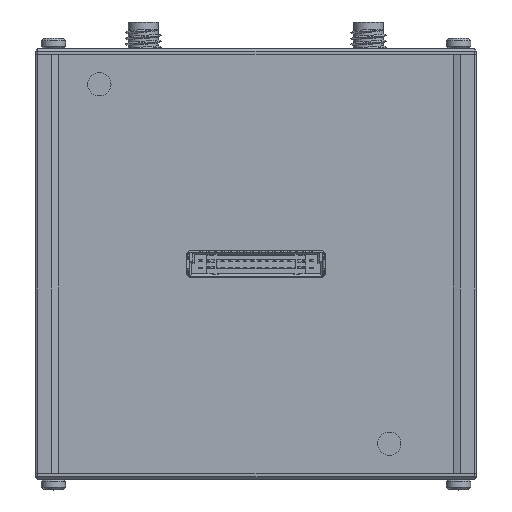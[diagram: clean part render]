
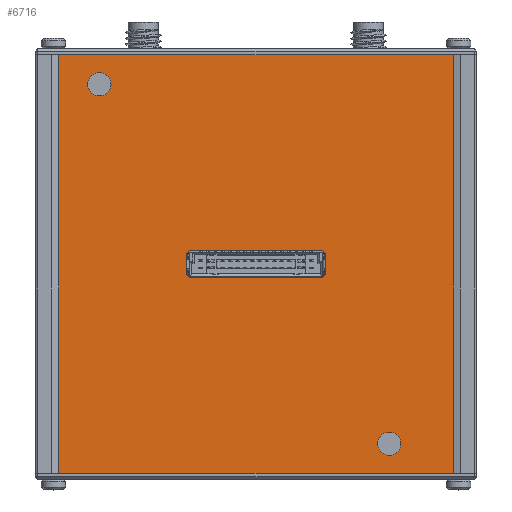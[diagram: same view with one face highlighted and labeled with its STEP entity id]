
A CAD part, top view. The second image highlights one B-rep face of the part: STEP entity #6716.
In plain terms, the highlighted planar face has unit normal (0, 0, 1).
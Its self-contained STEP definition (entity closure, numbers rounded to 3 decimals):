
#2460=DIRECTION('',(0.,-1.,0.));
#2461=VECTOR('',#2460,72.2);
#2462=CARTESIAN_POINT('',(33.981,36.1,-0.35));
#2463=LINE('',#2462,#2461);
#2464=DIRECTION('',(1.,0.,0.));
#2465=VECTOR('',#2464,67.961);
#2466=CARTESIAN_POINT('',(-33.981,36.1,-0.35));
#2467=LINE('',#2466,#2465);
#2468=DIRECTION('',(-1.,0.,0.));
#2469=VECTOR('',#2468,67.961);
#2470=CARTESIAN_POINT('',(33.981,-36.1,-0.35));
#2471=LINE('',#2470,#2469);
#2472=CARTESIAN_POINT('',(-27.,31.,-0.35));
#2473=DIRECTION('',(0.,0.,1.));
#2474=DIRECTION('',(1.,0.,0.));
#2475=AXIS2_PLACEMENT_3D('',#2472,#2473,#2474);
#2477=CARTESIAN_POINT('',(-27.,31.,-0.35));
#2478=DIRECTION('',(0.,0.,1.));
#2479=DIRECTION('',(-1.,0.,0.));
#2480=AXIS2_PLACEMENT_3D('',#2477,#2478,#2479);
#2482=CARTESIAN_POINT('',(23.,-31.,-0.35));
#2483=DIRECTION('',(0.,0.,1.));
#2484=DIRECTION('',(1.,0.,0.));
#2485=AXIS2_PLACEMENT_3D('',#2482,#2483,#2484);
#2487=CARTESIAN_POINT('',(23.,-31.,-0.35));
#2488=DIRECTION('',(0.,0.,1.));
#2489=DIRECTION('',(-1.,0.,0.));
#2490=AXIS2_PLACEMENT_3D('',#2487,#2488,#2489);
#2492=DIRECTION('',(-1.,0.,0.));
#2493=VECTOR('',#2492,22.4);
#2494=CARTESIAN_POINT('',(11.2,2.3,-0.35));
#2495=LINE('',#2494,#2493);
#2496=DIRECTION('',(0.,-1.,0.));
#2497=VECTOR('',#2496,3.);
#2498=CARTESIAN_POINT('',(-12.,1.5,-0.35));
#2499=LINE('',#2498,#2497);
#2500=DIRECTION('',(1.,0.,0.));
#2501=VECTOR('',#2500,22.4);
#2502=CARTESIAN_POINT('',(-11.2,-2.3,-0.35));
#2503=LINE('',#2502,#2501);
#2504=DIRECTION('',(0.,1.,0.));
#2505=VECTOR('',#2504,3.);
#2506=CARTESIAN_POINT('',(12.,-1.5,-0.35));
#2507=LINE('',#2506,#2505);
#2508=DIRECTION('',(0.,-1.,0.));
#2509=VECTOR('',#2508,72.2);
#2510=CARTESIAN_POINT('',(-33.981,36.1,-0.35));
#2511=LINE('',#2510,#2509);
#2536=CARTESIAN_POINT('',(-11.2,1.5,-0.35));
#2537=DIRECTION('',(0.,0.,-1.));
#2538=DIRECTION('',(-1.,0.,0.));
#2539=AXIS2_PLACEMENT_3D('',#2536,#2537,#2538);
#2554=CARTESIAN_POINT('',(-11.2,-1.5,-0.35));
#2555=DIRECTION('',(0.,0.,-1.));
#2556=DIRECTION('',(0.,-1.,0.));
#2557=AXIS2_PLACEMENT_3D('',#2554,#2555,#2556);
#2572=CARTESIAN_POINT('',(11.2,-1.5,-0.35));
#2573=DIRECTION('',(0.,0.,-1.));
#2574=DIRECTION('',(1.,0.,0.));
#2575=AXIS2_PLACEMENT_3D('',#2572,#2573,#2574);
#2590=CARTESIAN_POINT('',(11.2,1.5,-0.35));
#2591=DIRECTION('',(0.,0.,-1.));
#2592=DIRECTION('',(0.,1.,0.));
#2593=AXIS2_PLACEMENT_3D('',#2590,#2591,#2592);
#3542=CARTESIAN_POINT('',(-33.981,-36.1,-0.35));
#3544=VERTEX_POINT('',#3542);
#3546=CARTESIAN_POINT('',(-33.981,36.1,-0.35));
#3548=VERTEX_POINT('',#3546);
#4010=CARTESIAN_POINT('',(33.981,-36.1,-0.35));
#4012=VERTEX_POINT('',#4010);
#4014=CARTESIAN_POINT('',(33.981,36.1,-0.35));
#4016=VERTEX_POINT('',#4014);
#4040=CARTESIAN_POINT('',(-25.,31.,-0.35));
#4041=CARTESIAN_POINT('',(-29.,31.,-0.35));
#4042=VERTEX_POINT('',#4040);
#4043=VERTEX_POINT('',#4041);
#4044=CARTESIAN_POINT('',(25.,-31.,-0.35));
#4045=CARTESIAN_POINT('',(21.,-31.,-0.35));
#4046=VERTEX_POINT('',#4044);
#4047=VERTEX_POINT('',#4045);
#4056=CARTESIAN_POINT('',(-11.2,-2.3,-0.35));
#4058=VERTEX_POINT('',#4056);
#4060=CARTESIAN_POINT('',(-12.,-1.5,-0.35));
#4062=VERTEX_POINT('',#4060);
#4064=CARTESIAN_POINT('',(-12.,1.5,-0.35));
#4066=VERTEX_POINT('',#4064);
#4068=CARTESIAN_POINT('',(-11.2,2.3,-0.35));
#4070=VERTEX_POINT('',#4068);
#4072=CARTESIAN_POINT('',(11.2,2.3,-0.35));
#4074=VERTEX_POINT('',#4072);
#4076=CARTESIAN_POINT('',(12.,1.5,-0.35));
#4078=VERTEX_POINT('',#4076);
#4080=CARTESIAN_POINT('',(12.,-1.5,-0.35));
#4082=VERTEX_POINT('',#4080);
#4084=CARTESIAN_POINT('',(11.2,-2.3,-0.35));
#4086=VERTEX_POINT('',#4084);
#6674=CARTESIAN_POINT('',(0.,57.6,-0.35));
#6675=DIRECTION('',(0.,0.,-1.));
#6676=DIRECTION('',(-1.,0.,0.));
#6677=AXIS2_PLACEMENT_3D('',#6674,#6675,#6676);
#6678=PLANE('',#6677);
#6679=ORIENTED_EDGE('',*,*,#5035,.T.);
#6680=ORIENTED_EDGE('',*,*,#6667,.T.);
#6681=ORIENTED_EDGE('',*,*,#4358,.T.);
#6683=ORIENTED_EDGE('',*,*,#6682,.F.);
#6684=EDGE_LOOP('',(#6679,#6680,#6681,#6683));
#6685=FACE_OUTER_BOUND('',#6684,.F.);
#6687=ORIENTED_EDGE('',*,*,#6686,.T.);
#6689=ORIENTED_EDGE('',*,*,#6688,.T.);
#6690=EDGE_LOOP('',(#6687,#6689));
#6691=FACE_BOUND('',#6690,.F.);
#6693=ORIENTED_EDGE('',*,*,#6692,.T.);
#6695=ORIENTED_EDGE('',*,*,#6694,.T.);
#6696=EDGE_LOOP('',(#6693,#6695));
#6697=FACE_BOUND('',#6696,.F.);
#6699=ORIENTED_EDGE('',*,*,#6698,.T.);
#6701=ORIENTED_EDGE('',*,*,#6700,.F.);
#6703=ORIENTED_EDGE('',*,*,#6702,.T.);
#6705=ORIENTED_EDGE('',*,*,#6704,.F.);
#6707=ORIENTED_EDGE('',*,*,#6706,.T.);
#6709=ORIENTED_EDGE('',*,*,#6708,.F.);
#6711=ORIENTED_EDGE('',*,*,#6710,.T.);
#6713=ORIENTED_EDGE('',*,*,#6712,.F.);
#6714=EDGE_LOOP('',(#6699,#6701,#6703,#6705,#6707,#6709,#6711,#6713));
#6715=FACE_BOUND('',#6714,.F.);
#6716=ADVANCED_FACE('',(#6685,#6691,#6697,#6715),#6678,.F.);
#2476=CIRCLE('',#2475,2.);
#2481=CIRCLE('',#2480,2.);
#2486=CIRCLE('',#2485,2.);
#2491=CIRCLE('',#2490,2.);
#2540=CIRCLE('',#2539,0.8);
#2558=CIRCLE('',#2557,0.8);
#2576=CIRCLE('',#2575,0.8);
#2594=CIRCLE('',#2593,0.8);
#4358=EDGE_CURVE('',#4012,#3544,#2471,.T.);
#5035=EDGE_CURVE('',#3548,#4016,#2467,.T.);
#6667=EDGE_CURVE('',#4016,#4012,#2463,.T.);
#6682=EDGE_CURVE('',#3548,#3544,#2511,.T.);
#6686=EDGE_CURVE('',#4042,#4043,#2476,.T.);
#6688=EDGE_CURVE('',#4043,#4042,#2481,.T.);
#6692=EDGE_CURVE('',#4046,#4047,#2486,.T.);
#6694=EDGE_CURVE('',#4047,#4046,#2491,.T.);
#6698=EDGE_CURVE('',#4074,#4070,#2495,.T.);
#6700=EDGE_CURVE('',#4066,#4070,#2540,.T.);
#6702=EDGE_CURVE('',#4066,#4062,#2499,.T.);
#6704=EDGE_CURVE('',#4058,#4062,#2558,.T.);
#6706=EDGE_CURVE('',#4058,#4086,#2503,.T.);
#6708=EDGE_CURVE('',#4082,#4086,#2576,.T.);
#6710=EDGE_CURVE('',#4082,#4078,#2507,.T.);
#6712=EDGE_CURVE('',#4074,#4078,#2594,.T.);
